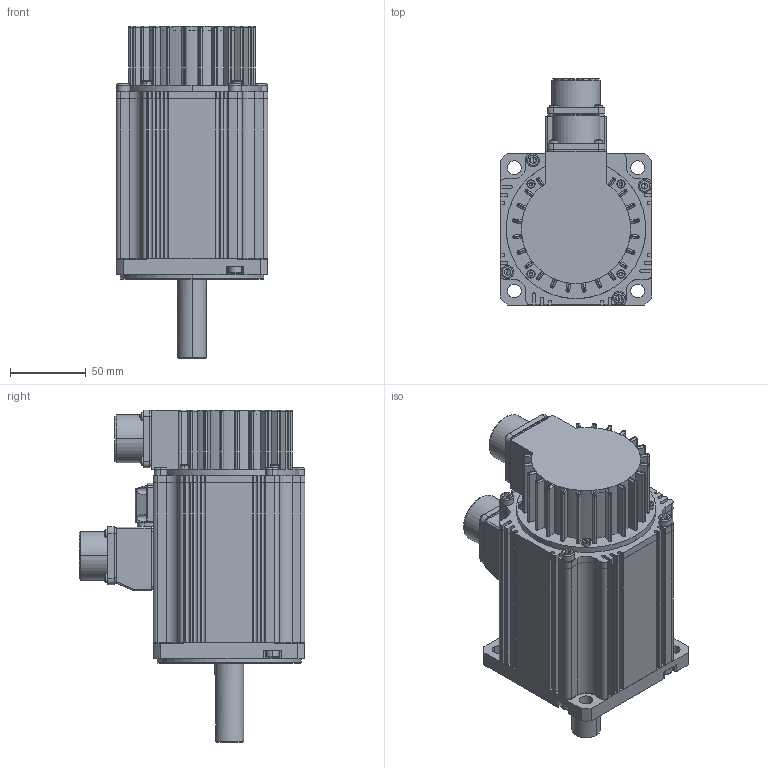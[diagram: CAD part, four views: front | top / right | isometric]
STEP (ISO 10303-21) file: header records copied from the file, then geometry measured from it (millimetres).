
FILE_DESCRIPTION((''),'2;1');
FILE_NAME('L-10E4K3A0_ASM','2018-11-26T',('lisy41'),(''),'CREO PARAMETRIC BY PTC INC, 2015480','CREO PARAMETRIC BY PTC INC, 2015480','');
FILE_SCHEMA(('CONFIG_CONTROL_DESIGN'));
Length unit declared in the file: millimetre
Products named in the file (39): 80D5005201_AF1; 80S6000401; 80G6000101; HANGCHAMIFENGJIAODIAN; 80G3000201; MJ01-8065_AF4; MJ01-8065_AF5; MJ01-8065_AF6; MJ01-8065_AF7; 80C4003501_AF1_ASM; 80Q0006701_AF1; 80L4004501_AF1_ASM; 80D2004601_AF1; 80L5004001_AF1_ASM; 80D2004501_AF1; MJ01-8059_AF8; MJ01-8059_AF9; MJ01-8059_AF10; MJ01-8059_AF11; MJ01-8059_AF12; MJ01-8059_AF13; MJ01-8059_AF14; MJ01-8059_AF15; 80S6002801; 80S5000101; MJ01-8045_AF4; MJ01-8045_AF5; MJ01-8045_AF6; MJ01-8045_AF7; 80D20009011_AF0; 80G3000501; MJ01-8041; 80T5004101_AF0_ASM; MJ01-8033_AF4; MJ01-8033_AF5; MJ01-8033_AF6; MJ01-8033_AF7; ASM0001_AF1_ASM; L-10E4K3A0_ASM
Assembly tree (42 placements, depth 4):
  L-10E4K3A0_ASM
    80C4003501_AF1_ASM
      80D5005201_AF1
      80S6000401
      80G6000101
      HANGCHAMIFENGJIAODIAN
      80G3000201
      MJ01-8065_AF4
      MJ01-8065_AF5
      MJ01-8065_AF6
      MJ01-8065_AF7
    80L5004001_AF1_ASM
      80L4004501_AF1_ASM
        80Q0006701_AF1
      80D2004601_AF1
    80D2004501_AF1
    MJ01-8059_AF8
    MJ01-8059_AF9
    MJ01-8059_AF10
    MJ01-8059_AF11
    MJ01-8059_AF12
    MJ01-8059_AF13
    MJ01-8059_AF14
    MJ01-8059_AF15
    80S6002801
    80S5000101
    MJ01-8045_AF4
    MJ01-8045_AF5
    MJ01-8045_AF6
    MJ01-8045_AF7
    ASM0001_AF1_ASM
      80T5004101_AF0_ASM
        80D20009011_AF0
        HANGCHAMIFENGJIAODIAN
        80G3000501
        MJ01-8041  x4
      MJ01-8033_AF4
      MJ01-8033_AF5
      MJ01-8033_AF6
      MJ01-8033_AF7
Bounding box: 100 x 149.1 x 219.05 mm (x, y, z)
Volume: 372073.5 mm3; surface area: 237408.5 mm2
Topology: 37 solids, 74 shells, 2676 faces, 6577 edges, 4022 vertices
Faces by surface type: cylinder 1164, plane 885, cone 467, sphere 116, torus 44
Entity records: 66604 total; most frequent: CARTESIAN_POINT 12667, DIRECTION 12040, ORIENTED_EDGE 10520, EDGE_CURVE 5341, AXIS2_PLACEMENT_3D 4645, VERTEX_POINT 3416, VECTOR 2750, LINE 2750
